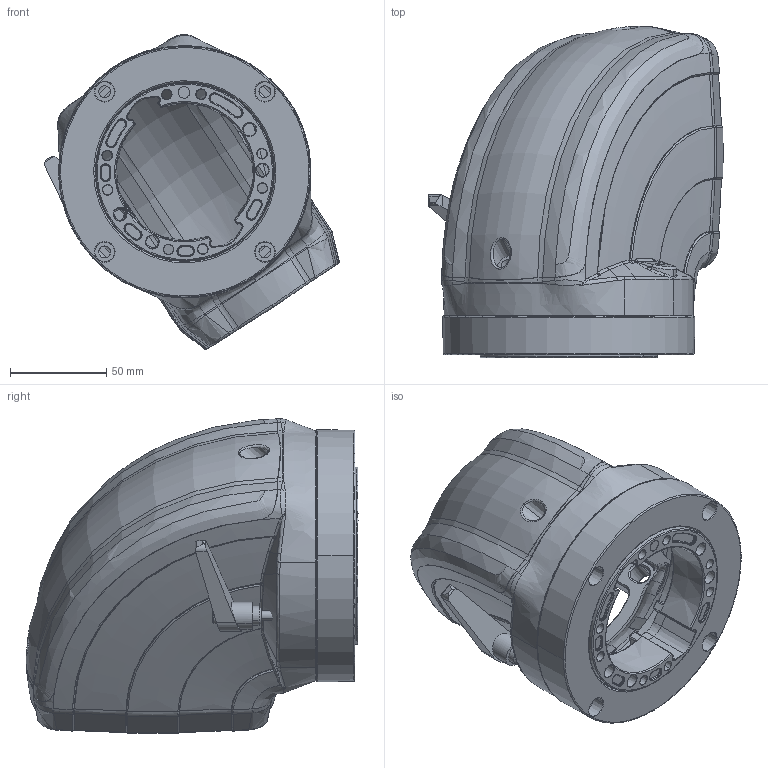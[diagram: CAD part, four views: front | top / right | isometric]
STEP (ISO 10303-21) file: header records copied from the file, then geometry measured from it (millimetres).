
FILE_DESCRIPTION (( 'STEP AP203' ), '1' );
FILE_NAME ('ETR120320.STEP', '2017-06-22T12:30:41', ( '' ), ( '' ), 'SwSTEP 2.0', 'SolidWorks 2017', '' );
FILE_SCHEMA (( 'CONFIG_CONTROL_DESIGN' ));
Length unit declared in the file: millimetre
Products named in the file (3): ETR120320_base_girevole; ETR120320; ETR120320_base_fissa
Assembly tree (2 placements, depth 2):
  ETR120320
    ETR120320_base_fissa
    ETR120320_base_girevole
Bounding box: 153.23 x 172.8 x 163.84 mm (x, y, z)
Volume: 88187.3 mm3; surface area: 223487 mm2
Topology: 1 solids, 5 shells, 2651 faces, 6482 edges, 3863 vertices
Faces by surface type: bspline 1564, cone 543, plane 306, cylinder 227, torus 11
Entity records: 198789 total; most frequent: CARTESIAN_POINT 149574, ORIENTED_EDGE 12679, DIRECTION 7117, EDGE_CURVE 6345, VERTEX_POINT 3863, AXIS2_PLACEMENT_3D 3034, EDGE_LOOP 2871, FACE_OUTER_BOUND 2651
